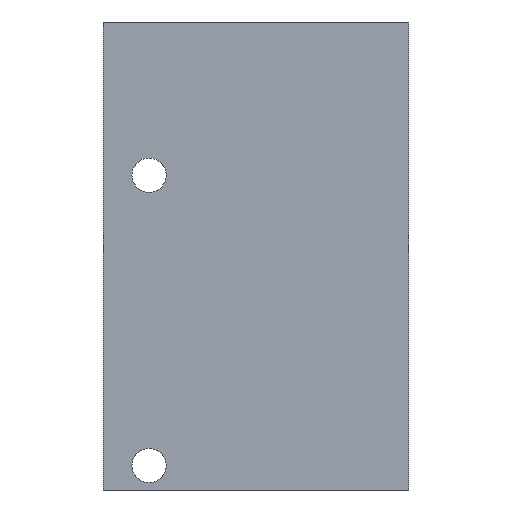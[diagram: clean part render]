
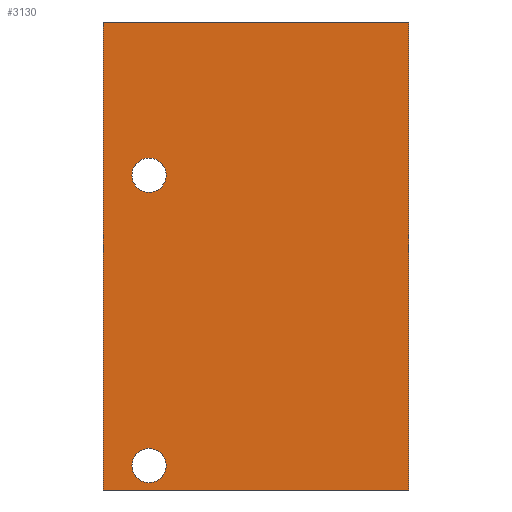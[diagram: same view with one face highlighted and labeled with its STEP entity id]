
A CAD part, front view. The second image highlights one B-rep face of the part: STEP entity #3130.
In plain terms, the highlighted planar face has unit normal (0, -1, 0).
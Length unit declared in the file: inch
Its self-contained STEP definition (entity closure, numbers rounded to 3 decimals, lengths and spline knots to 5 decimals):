
#147=CIRCLE('',#3331,0.14);
#149=CIRCLE('',#3334,0.14);
#303=FACE_BOUND('',#845,.T.);
#304=FACE_BOUND('',#846,.T.);
#305=FACE_BOUND('',#847,.T.);
#845=EDGE_LOOP('',(#2609));
#846=EDGE_LOOP('',(#2610));
#847=EDGE_LOOP('',(#2611,#2612,#2613,#2614));
#1152=LINE('',#5258,#1352);
#1154=LINE('',#5486,#1354);
#1158=LINE('',#5560,#1358);
#1160=LINE('',#5571,#1360);
#1352=VECTOR('',#3819,3.828);
#1354=VECTOR('',#3925,3.828);
#1358=VECTOR('',#3973,2.5);
#1360=VECTOR('',#3987,2.5);
#1521=VERTEX_POINT('',#5251);
#1524=VERTEX_POINT('',#5256);
#1556=VERTEX_POINT('',#5483);
#1557=VERTEX_POINT('',#5485);
#1566=VERTEX_POINT('',#5543);
#1568=VERTEX_POINT('',#5548);
#1882=EDGE_CURVE('',#1524,#1521,#1152,.T.);
#1916=EDGE_CURVE('',#1557,#1556,#1154,.T.);
#1926=EDGE_CURVE('',#1566,#1566,#147,.T.);
#1928=EDGE_CURVE('',#1568,#1568,#149,.T.);
#1933=EDGE_CURVE('',#1557,#1524,#1158,.T.);
#1938=EDGE_CURVE('',#1556,#1521,#1160,.T.);
#2609=ORIENTED_EDGE('',*,*,#1926,.T.);
#2610=ORIENTED_EDGE('',*,*,#1928,.T.);
#2611=ORIENTED_EDGE('',*,*,#1938,.T.);
#2612=ORIENTED_EDGE('',*,*,#1882,.F.);
#2613=ORIENTED_EDGE('',*,*,#1933,.F.);
#2614=ORIENTED_EDGE('',*,*,#1916,.T.);
#2816=PLANE('',#3369);
#3130=ADVANCED_FACE('',(#303,#304,#305),#2816,.T.);
#3331=AXIS2_PLACEMENT_3D('',#5544,#3952,#3953);
#3334=AXIS2_PLACEMENT_3D('',#5549,#3958,#3959);
#3369=AXIS2_PLACEMENT_3D('',#5603,#4032,#4033);
#3819=DIRECTION('',(0.,0.,1.));
#3925=DIRECTION('',(0.,0.,1.));
#3952=DIRECTION('center_axis',(0.,1.,0.));
#3953=DIRECTION('ref_axis',(1.,0.,0.));
#3958=DIRECTION('center_axis',(0.,1.,0.));
#3959=DIRECTION('ref_axis',(1.,0.,0.));
#3973=DIRECTION('',(-1.,0.,0.));
#3987=DIRECTION('',(-1.,0.,0.));
#4032=DIRECTION('center_axis',(0.,-1.,0.));
#4033=DIRECTION('ref_axis',(0.,0.,-1.));
#5251=CARTESIAN_POINT('',(-1.25,-0.75,3.828));
#5256=CARTESIAN_POINT('',(-1.25,-0.75,0.));
#5258=CARTESIAN_POINT('',(-1.25,-0.75,0.));
#5483=CARTESIAN_POINT('',(1.25,-0.75,3.828));
#5485=CARTESIAN_POINT('',(1.25,-0.75,0.));
#5486=CARTESIAN_POINT('',(1.25,-0.75,0.));
#5543=CARTESIAN_POINT('',(-0.735,-0.75,2.575));
#5544=CARTESIAN_POINT('Origin',(-0.875,-0.75,2.575));
#5548=CARTESIAN_POINT('',(-0.735,-0.75,0.2));
#5549=CARTESIAN_POINT('Origin',(-0.875,-0.75,0.2));
#5560=CARTESIAN_POINT('',(1.25,-0.75,0.));
#5571=CARTESIAN_POINT('',(1.25,-0.75,3.828));
#5603=CARTESIAN_POINT('Origin',(1.25,-0.75,0.));
